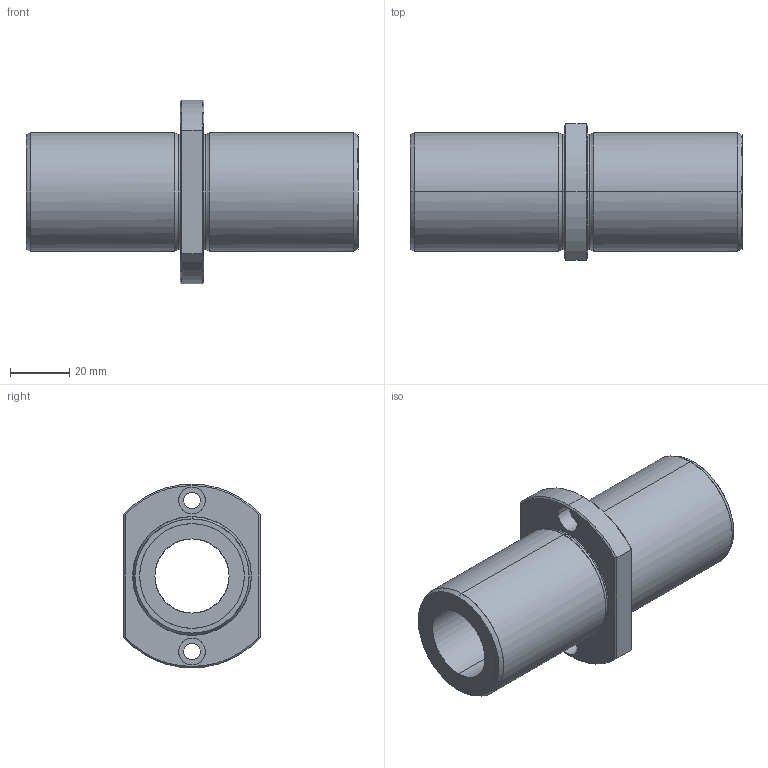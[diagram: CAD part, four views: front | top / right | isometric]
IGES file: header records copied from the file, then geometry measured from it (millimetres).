
Global section: file name: No Iges File Name specified; native system: AutoDesk Inventor R10; preprocessor: AutoDesk Inventor Iges Exporter R10; author: No Author specified; organization: No Organization specified; date: 20101211.155836; units: millimetre
Bounding box: 112 x 46 x 62 mm (x, y, z)
Surface area: 27685.4 mm2 (no closed solid volume)
Topology: 0 solids, 0 shells, 56 faces, 336 edges, 336 vertices
Faces by surface type: bspline 56
